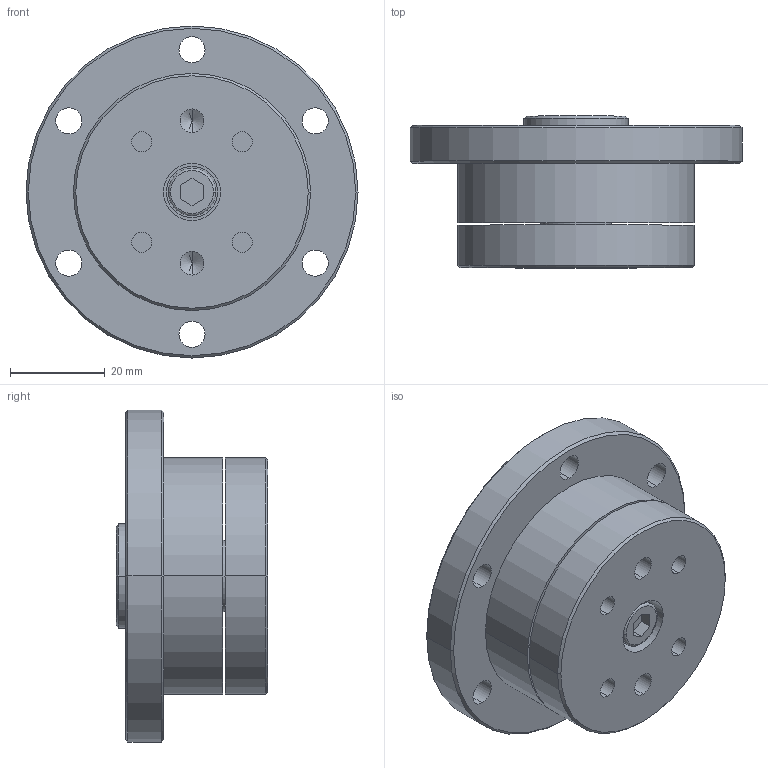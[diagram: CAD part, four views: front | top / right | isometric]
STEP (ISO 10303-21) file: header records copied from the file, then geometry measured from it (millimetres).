
FILE_DESCRIPTION (( 'STEP AP203' ), '1' );
FILE_NAME ('FGU-L-003-2T.STEP', '2022-10-31T07:44:46', ( '' ), ( '' ), 'SwSTEP 2.0', 'SolidWorks 2021', '' );
FILE_SCHEMA (( 'CONFIG_CONTROL_DESIGN' ));
Length unit declared in the file: millimetre
Products named in the file (1): FGU-L-003-2T
Bounding box: 70 x 32 x 70 mm (x, y, z)
Volume: 71506 mm3; surface area: 18078.1 mm2
Topology: 1 solids, 1 shells, 74 faces, 176 edges, 109 vertices
Faces by surface type: cylinder 42, plane 16, cone 14, torus 2
Entity records: 2243 total; most frequent: DIRECTION 416, CARTESIAN_POINT 354, ORIENTED_EDGE 340, AXIS2_PLACEMENT_3D 171, EDGE_CURVE 170, VERTEX_POINT 109, EDGE_LOOP 105, CIRCLE 96
